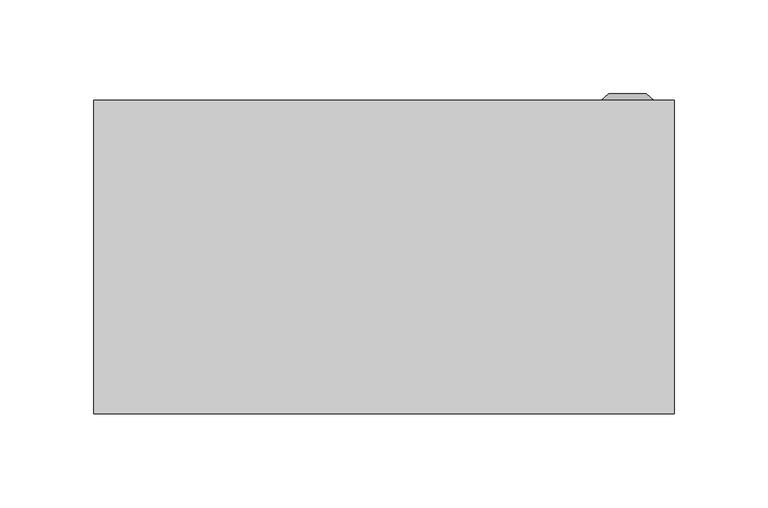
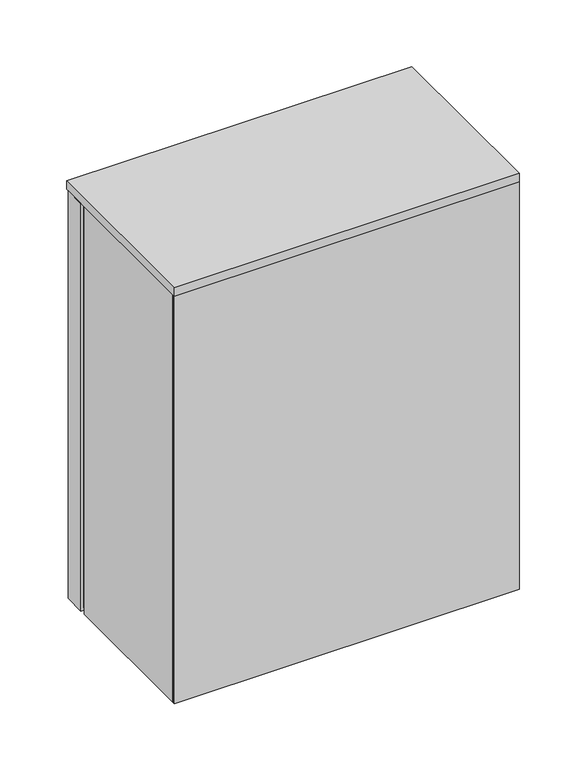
"""IFC4 building model written with IfcOpenShell, lengths in millimetres: proxy geometry, ЩУ-1ф_1-0-12_с опломбировкой_IP66 : ЩУ-1ф/1-0-12 с опломбировкой счетчика_IP66."""

from ifc_helpers import new_model, si_unit, point, frame, frame_2d, origin, origin_with_axes, place, context, project, spatial, polyline, circle_curve, trimmed, segment, composite_curve, outline, extrude, source, transform, mapped, element, save
from ifc_brep_helpers import plane_surface, cylinder_surface, revolved_surface, advanced_brep


def electrical_equipment_5da544b6(model_context):
    return source(origin(), model_context, "Body", "SolidModel", [
        extrude(outline(composite_curve([segment(trimmed(circle_curve(frame_2d((274.0, 5.0)), 5.0), [point((269.0, 5.0))], [point((274.0, 10.0))], False, "CARTESIAN"), True, "CONTINUOUS"), segment(polyline([(274.0, 10.0), (334.0, 10.0)]), True, "CONTINUOUS"), segment(trimmed(circle_curve(frame_2d((334.0, 5.0)), 5.0), [point((334.0, 10.0))], [point((339.0, 5.0))], False, "CARTESIAN"), True, "CONTINUOUS"), segment(polyline([(339.0, 5.0), (339.0, -95.0)]), True, "CONTINUOUS"), segment(trimmed(circle_curve(frame_2d((334.0, -95.0)), 5.0), [point((339.0, -95.0))], [point((334.0, -100.0))], False, "CARTESIAN"), True, "CONTINUOUS"), segment(polyline([(334.0, -100.0), (274.0, -100.0)]), True, "CONTINUOUS"), segment(trimmed(circle_curve(frame_2d((274.0, -95.0)), 5.0), [point((274.0, -100.0))], [point((269.0, -95.0))], False, "CARTESIAN"), True, "CONTINUOUS"), segment(polyline([(269.0, -95.0), (269.0, 5.0)]), True, "CONTINUOUS")], self_intersect=False)), frame((0.0, 163.0, 0.0), z_axis=(0.0, 1.0, 0.0), x_axis=(0.0, 0.0, 1.0)), (0.0, 0.0, 1.0), 2.0),
        extrude(outline(polyline([(150.0, 140.0), (-150.0, 140.0), (-150.0, 145.0), (150.0, 145.0), (150.0, 140.0)])), frame((0.0, 0.0, 5.0), z_axis=(0.0, 0.0, 1.0), x_axis=(1.0, 0.0, 0.0)), (0.0, 0.0, 1.0), 382.0),
        advanced_brep(
        [(-155.0, 145.0, 387.0), (-155.0, 145.0, 0.0), (155.0, 145.0, 0.0), (155.0, 145.0, 387.0), (152.9966095, 145.0, 387.0), (152.9966095, 145.0, 2.0), (-153.0033905, 145.0, 2.0), (-153.0033905, 145.0, 387.0), (-155.0, 165.0, 387.0), (155.0, 165.0, 387.0), (155.0, 165.0, 0.0), (-155.0, 165.0, 0.0), (-95.0, 165.0, 339.0), (-100.0, 165.0, 334.0), (-100.0, 165.0, 274.0), (-95.0, 165.0, 269.0), (5.0, 165.0, 269.0), (10.0, 165.0, 274.0), (10.0, 165.0, 334.0), (5.0, 165.0, 339.0), (-153.0033905, 163.0, 387.0), (152.9966095, 163.0, 387.0), (5.0, 163.0, 339.0), (-95.0, 163.0, 339.0), (10.0, 163.0, 334.0), (10.0, 163.0, 274.0), (5.0, 163.0, 269.0), (-95.0, 163.0, 269.0), (-100.0, 163.0, 274.0), (-100.0, 163.0, 334.0), (-153.0033905, 163.0, 2.0), (152.9966095, 163.0, 2.0)],
        [
            (0, 1),
            (1, 2),
            (2, 3),
            (3, 4),
            (4, 5),
            (5, 6),
            (6, 7),
            (7, 0),
            (8, 9),
            (9, 10),
            (10, 11),
            (11, 8),
            (12, 13, circle_curve(frame((-95.0, 165.0, 334.0), z_axis=(0.0, -1.0, 0.0), x_axis=(1.0, 0.0, 0.0)), 5.0)),
            (13, 14),
            (14, 15, circle_curve(frame((-95.0, 165.0, 274.0), z_axis=(0.0, -1.0, 0.0), x_axis=(1.0, 0.0, 0.0)), 5.0)),
            (15, 16),
            (16, 17, circle_curve(frame((5.0, 165.0, 274.0), z_axis=(0.0, -1.0, 0.0), x_axis=(1.0, 0.0, 0.0)), 5.0)),
            (17, 18),
            (18, 19, circle_curve(frame((5.0, 165.0, 334.0), z_axis=(0.0, -1.0, 0.0), x_axis=(1.0, 0.0, 0.0)), 5.0)),
            (19, 12),
            (0, 8),
            (11, 1),
            (10, 2),
            (9, 3),
            (7, 20),
            (20, 21),
            (21, 4),
            (19, 22),
            (22, 23),
            (23, 12),
            (18, 24),
            (24, 22, circle_curve(frame((5.0, 163.0, 334.0), z_axis=(0.0, -1.0, 0.0), x_axis=(1.0, 0.0, 0.0)), 5.0)),
            (17, 25),
            (25, 24),
            (16, 26),
            (26, 25, circle_curve(frame((5.0, 163.0, 274.0), z_axis=(0.0, -1.0, 0.0), x_axis=(1.0, 0.0, 0.0)), 5.0)),
            (15, 27),
            (27, 26),
            (14, 28),
            (28, 27, circle_curve(frame((-95.0, 163.0, 274.0), z_axis=(0.0, -1.0, 0.0), x_axis=(1.0, 0.0, 0.0)), 5.0)),
            (13, 29),
            (29, 28),
            (23, 29, circle_curve(frame((-95.0, 163.0, 334.0), z_axis=(0.0, -1.0, 0.0), x_axis=(1.0, 0.0, 0.0)), 5.0)),
            (20, 30),
            (30, 31),
            (31, 21),
            (6, 30),
            (5, 31),
        ],
        [
            plane_surface(frame((-155.0, 145.0, 387.0), z_axis=(0.0, -1.0, 0.0), x_axis=(0.0, 0.0, -1.0))),
            plane_surface(frame((-155.0, 165.0, 387.0), z_axis=(0.0, 1.0, 0.0), x_axis=(0.0, 0.0, 1.0))),
            plane_surface(frame((-155.0, 145.0, 387.0), z_axis=(-1.0, 0.0, 0.0), x_axis=(0.0, 1.0, 0.0))),
            plane_surface(frame((-155.0, 145.0, 0.0), z_axis=(0.0, 0.0, -1.0), x_axis=(0.0, 1.0, 0.0))),
            plane_surface(frame((155.0, 145.0, 0.0), z_axis=(1.0, 0.0, 0.0), x_axis=(0.0, 1.0, 0.0))),
            plane_surface(frame((155.0, 145.0, 387.0), z_axis=(0.0, 0.0, 1.0), x_axis=(0.0, 1.0, 0.0))),
            plane_surface(frame((-95.0, 145.0, 339.0), z_axis=(0.0, 0.0, -1.0), x_axis=(0.0, 1.0, 0.0))),
            revolved_surface(polyline([(10.0, 165.0, 334.0), (10.0, 163.0, 334.0)]), (5.0, -15.0, 334.0), (0.0, 1.0, 0.0)),
            plane_surface(frame((10.0, 145.0, 334.0), z_axis=(-1.0, 0.0, 0.0), x_axis=(0.0, 1.0, 0.0))),
            revolved_surface(polyline([(10.0, 165.0, 274.0), (10.0, 163.0, 274.0)]), (5.0, -15.0, 274.0), (0.0, 1.0, 0.0)),
            plane_surface(frame((5.0, 145.0, 269.0), z_axis=(0.0, 0.0, 1.0), x_axis=(0.0, 1.0, 0.0))),
            revolved_surface(polyline([(-90.0, 165.0, 274.0), (-90.0, 163.0, 274.0)]), (-95.0, -15.0, 274.0), (0.0, 1.0, 0.0)),
            plane_surface(frame((-100.0, 145.0, 274.0), z_axis=(1.0, 0.0, 0.0), x_axis=(0.0, 1.0, 0.0))),
            revolved_surface(polyline([(-90.0, 165.0, 334.0), (-90.0, 163.0, 334.0)]), (-95.0, -15.0, 334.0), (0.0, 1.0, 0.0)),
            plane_surface(frame((-153.0033905, 163.0, 381.4038312), z_axis=(0.0, -1.0, 0.0), x_axis=(0.0, 0.0, 1.0))),
            plane_surface(frame((-153.0033905, 145.0, 387.0), z_axis=(1.0, 0.0, 0.0), x_axis=(0.0, 1.0, 0.0))),
            plane_surface(frame((-153.0033905, 145.0, 2.0), z_axis=(0.0, 0.0, 1.0), x_axis=(0.0, 1.0, 0.0))),
            plane_surface(frame((152.9966095, 145.0, 2.0), z_axis=(-1.0, 0.0, 0.0), x_axis=(0.0, 1.0, 0.0))),
        ],
        [
            (0, [[1, 2, 3, 4, 5, 6, 7, 8]]),
            (1, [[9, 10, 11, 12], [13, 14, 15, 16, 17, 18, 19, 20]]),
            (2, [[-1, 21, -12, 22]]),
            (3, [[-2, -22, -11, 23]]),
            (4, [[-3, -23, -10, 24]]),
            (5, [[-9, -21, -8, 25, 26, 27, -4, -24]]),
            (6, [[-20, 28, 29, 30]]),
            (7, [[-19, 31, 32, -28]]),
            (8, [[-18, 33, 34, -31]]),
            (9, [[-17, 35, 36, -33]]),
            (10, [[-16, 37, 38, -35]]),
            (11, [[-15, 39, 40, -37]]),
            (12, [[-14, 41, 42, -39]]),
            (13, [[-13, -30, 43, -41]]),
            (14, [[44, 45, 46, -26], [-29, -32, -34, -36, -38, -40, -42, -43]]),
            (15, [[-44, -25, -7, 47]]),
            (16, [[-45, -47, -6, 48]]),
            (17, [[-46, -48, -5, -27]]),
        ],
    ),
        extrude(outline(polyline([(155.0, 0.0), (-155.0033905, 0.0), (-155.0033905, 167.366592), (155.0, 167.366592), (155.0, 0.0)])), frame((0.0, 0.0, 387.0), z_axis=(0.0, 0.0, 1.0), x_axis=(1.0, 0.0, 0.0)), (0.0, 0.0, 1.0), 8.0),
        advanced_brep(
        [(115.669873, 165.0, 197.5), (144.330127, 165.0, 197.5), (130.0, 165.0, 197.5), (115.669873, 167.366592, 197.5), (144.330127, 167.366592, 197.5), (120.0, 171.0, 197.5), (140.0, 171.0, 197.5), (128.1080471, 171.0, 197.5), (131.8919529, 171.0, 197.5), (128.1080471, 169.9822294, 197.5), (131.8919529, 169.9822294, 197.5), (130.0, 169.9822294, 197.5)],
        [
            (0, 1, circle_curve(frame((130.0, 165.0, 197.5), z_axis=(0.0, -1.0, 0.0), x_axis=(1.0, 0.0, 0.0)), 14.330127)),
            (1, 2),
            (2, 0),
            (1, 0, circle_curve(frame((130.0, 165.0, 197.5), z_axis=(0.0, -1.0, 0.0), x_axis=(1.0, 0.0, 0.0)), 14.330127)),
            (3, 4, circle_curve(frame((130.0, 167.366592, 197.5), z_axis=(0.0, -1.0, 0.0), x_axis=(1.0, 0.0, 0.0)), 14.330127)),
            (4, 1),
            (0, 3),
            (4, 3, circle_curve(frame((130.0, 167.366592, 197.5), z_axis=(0.0, -1.0, 0.0), x_axis=(1.0, 0.0, 0.0)), 14.330127)),
            (5, 6, circle_curve(frame((130.0, 171.0, 197.5), z_axis=(0.0, -1.0, 0.0), x_axis=(1.0, 0.0, 0.0)), 10.0)),
            (6, 4),
            (3, 5),
            (6, 5, circle_curve(frame((130.0, 171.0, 197.5), z_axis=(0.0, -1.0, 0.0), x_axis=(1.0, 0.0, 0.0)), 10.0)),
            (7, 8, circle_curve(frame((130.0, 171.0, 197.5), z_axis=(0.0, -1.0, 0.0), x_axis=(1.0, 0.0, 0.0)), 1.8919529)),
            (8, 6),
            (5, 7),
            (8, 7, circle_curve(frame((130.0, 171.0, 197.5), z_axis=(0.0, -1.0, 0.0), x_axis=(1.0, 0.0, 0.0)), 1.8919529)),
            (9, 10, circle_curve(frame((130.0, 169.9822294, 197.5), z_axis=(0.0, -1.0, 0.0), x_axis=(1.0, 0.0, 0.0)), 1.8919529)),
            (10, 8),
            (7, 9),
            (10, 9, circle_curve(frame((130.0, 169.9822294, 197.5), z_axis=(0.0, -1.0, 0.0), x_axis=(1.0, 0.0, 0.0)), 1.8919529)),
            (11, 10),
            (9, 11),
        ],
        [
            plane_surface(frame((130.0, 165.0, 197.5), z_axis=(0.0, -1.0, 0.0), x_axis=(1.0, 0.0, 0.0))),
            cylinder_surface(frame((130.0, 178.1348851, 197.5), z_axis=(0.0, 1.0, 0.0), x_axis=(1.0, 0.0, 0.0)), 14.330127),
            revolved_surface(polyline([(144.330127, 167.366592, 197.5), (140.0, 171.0, 197.5)]), (130.0, 178.1348851, 197.5), (0.0, 1.0, 0.0)),
            plane_surface(frame((130.0, 171.0, 197.5), z_axis=(0.0, 1.0, 0.0), x_axis=(1.0, 0.0, 0.0))),
            revolved_surface(polyline([(131.8919529, 171.0, 197.5), (131.8919529, 169.9822294, 197.5)]), (130.0, 178.1348851, 197.5), (0.0, 1.0, 0.0)),
            plane_surface(frame((130.0, 169.9822294, 197.5), z_axis=(0.0, 1.0, 0.0), x_axis=(1.0, 0.0, 0.0))),
        ],
        [
            (0, [[1, 2, 3]]),
            (0, [[4, -3, -2]]),
            (1, [[5, 6, -1, 7]]),
            (1, [[8, -7, -4, -6]]),
            (2, [[9, 10, -5, 11]]),
            (2, [[12, -11, -8, -10]]),
            (3, [[13, 14, -9, 15]]),
            (3, [[16, -15, -12, -14]]),
            (4, [[17, 18, -13, 19]]),
            (4, [[20, -19, -16, -18]]),
            (5, [[21, -17, 22]]),
            (5, [[-22, -20, -21]]),
        ],
    ),
        extrude(outline(polyline([(387.0, -155.0033905), (0.0, -155.0033905), (0.0, 154.9966095), (387.0, 154.9966095), (387.0, -155.0033905)]), holes=[polyline([(370.0, -130.0033905), (370.0, 129.9966095), (25.0, 129.9966095), (25.0, -130.0033905), (370.0, -130.0033905)])]), frame((0.0, 2.0, 0.0), z_axis=(0.0, 1.0, 0.0), x_axis=(0.0, 0.0, 1.0)), (0.0, 0.0, 1.0), 138.0),
        extrude(outline(polyline([(155.0, 0.0), (-155.0, 0.0), (-155.0, 2.0), (155.0, 2.0), (155.0, 0.0)])), origin_with_axes(), (0.0, 0.0, 1.0), 387.0),
    ])


if __name__ == "__main__":
    model = new_model("IFC4")
    model_context = context("Model", 3, world=origin())
    ifc_project = project(units=[si_unit("LENGTHUNIT", "METRE", prefix="MILLI")], contexts=[model_context])
    site = spatial("IfcSite", under=ifc_project)
    building = spatial("IfcBuilding", under=site)
    placement = place(None, origin())
    electrical_equipment_shape = electrical_equipment_5da544b6(model_context)
    element("IfcBuildingElementProxy", 1, Name="ЩУ-1ф_1-0-12_с опломбировкой_IP66 : ЩУ-1ф/1-0-12 с опломбировкой счетчика_IP66", ObjectType="ЩУ-1ф_1-0-12_с опломбировкой_IP66 : ЩУ-1ф/1-0-12 с опломбировкой счетчика_IP66", at=placement, inside=building, context=model_context, shape_type="MappedRepresentation", body=[
        mapped(electrical_equipment_shape, transform((0.0, 0.0, 0.0), x_axis=(1.0, 0.0, 0.0), y_axis=(0.0, 1.0, 0.0), z_axis=(0.0, 0.0, 1.0))),
    ])
    save(model, "model.ifc")
